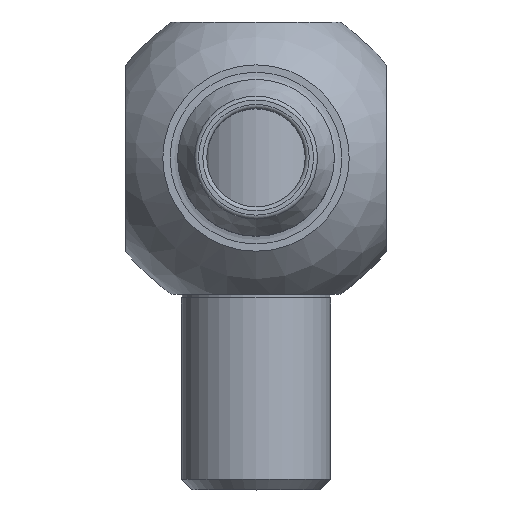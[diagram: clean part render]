
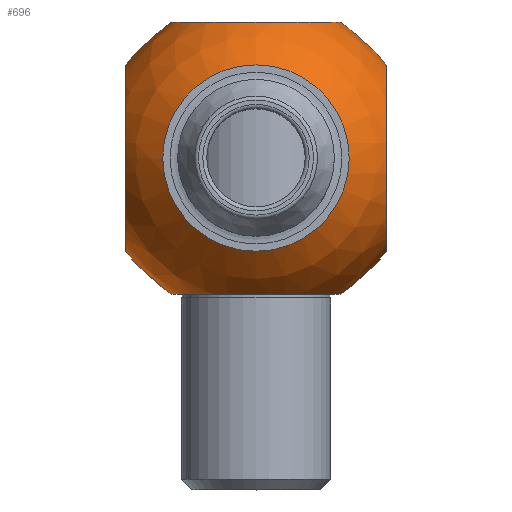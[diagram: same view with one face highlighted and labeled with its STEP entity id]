
A CAD part, top view. The second image highlights one B-rep face of the part: STEP entity #696.
In plain terms, the highlighted spherical face has radius 10.312 mm.
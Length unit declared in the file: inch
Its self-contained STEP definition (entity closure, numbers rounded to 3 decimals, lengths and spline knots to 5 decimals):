
#15=SPHERICAL_SURFACE('',#810,0.406);
#39=FACE_BOUND('',#155,.T.);
#40=FACE_BOUND('',#156,.T.);
#106=FACE_OUTER_BOUND('',#154,.T.);
#154=EDGE_LOOP('',(#638,#639,#640,#641,#642,#643,#644,#645,#646));
#155=EDGE_LOOP('',(#647));
#156=EDGE_LOOP('',(#648));
#245=CIRCLE('',#749,0.21323);
#246=CIRCLE('',#751,0.21323);
#247=CIRCLE('',#753,0.23651);
#248=CIRCLE('',#754,0.23651);
#249=CIRCLE('',#756,0.23651);
#250=CIRCLE('',#758,0.33);
#251=CIRCLE('',#759,0.33);
#274=CIRCLE('',#790,0.23651);
#275=CIRCLE('',#791,0.23651);
#288=CIRCLE('',#811,0.406);
#321=VERTEX_POINT('',#1183);
#322=VERTEX_POINT('',#1186);
#323=VERTEX_POINT('',#1189);
#324=VERTEX_POINT('',#1190);
#325=VERTEX_POINT('',#1192);
#326=VERTEX_POINT('',#1196);
#327=VERTEX_POINT('',#1197);
#347=VERTEX_POINT('',#1255);
#348=VERTEX_POINT('',#1256);
#405=EDGE_CURVE('',#321,#321,#245,.T.);
#406=EDGE_CURVE('',#322,#322,#246,.T.);
#407=EDGE_CURVE('',#323,#324,#247,.T.);
#409=EDGE_CURVE('',#324,#325,#248,.T.);
#410=EDGE_CURVE('',#326,#327,#249,.T.);
#412=EDGE_CURVE('',#327,#323,#250,.T.);
#413=EDGE_CURVE('',#325,#326,#251,.T.);
#439=EDGE_CURVE('',#347,#348,#274,.T.);
#440=EDGE_CURVE('',#348,#347,#275,.T.);
#457=EDGE_CURVE('',#348,#324,#288,.T.);
#638=ORIENTED_EDGE('',*,*,#439,.T.);
#639=ORIENTED_EDGE('',*,*,#457,.T.);
#640=ORIENTED_EDGE('',*,*,#409,.T.);
#641=ORIENTED_EDGE('',*,*,#413,.T.);
#642=ORIENTED_EDGE('',*,*,#410,.T.);
#643=ORIENTED_EDGE('',*,*,#412,.T.);
#644=ORIENTED_EDGE('',*,*,#407,.T.);
#645=ORIENTED_EDGE('',*,*,#457,.F.);
#646=ORIENTED_EDGE('',*,*,#440,.T.);
#647=ORIENTED_EDGE('',*,*,#405,.T.);
#648=ORIENTED_EDGE('',*,*,#406,.T.);
#696=ADVANCED_FACE('',(#106,#39,#40),#15,.T.);
#749=AXIS2_PLACEMENT_3D('',#1184,#913,#914);
#751=AXIS2_PLACEMENT_3D('',#1187,#917,#918);
#753=AXIS2_PLACEMENT_3D('',#1191,#921,#922);
#754=AXIS2_PLACEMENT_3D('',#1194,#924,#925);
#756=AXIS2_PLACEMENT_3D('',#1198,#928,#929);
#758=AXIS2_PLACEMENT_3D('',#1201,#933,#934);
#759=AXIS2_PLACEMENT_3D('',#1202,#935,#936);
#790=AXIS2_PLACEMENT_3D('',#1257,#1000,#1001);
#791=AXIS2_PLACEMENT_3D('',#1258,#1002,#1003);
#810=AXIS2_PLACEMENT_3D('',#1293,#1044,#1045);
#811=AXIS2_PLACEMENT_3D('',#1294,#1046,#1047);
#913=DIRECTION('center_axis',(0.,-1.,0.));
#914=DIRECTION('ref_axis',(0.,0.,1.));
#917=DIRECTION('center_axis',(0.,1.,0.));
#918=DIRECTION('ref_axis',(0.,0.,-1.));
#921=DIRECTION('center_axis',(1.,0.,0.));
#922=DIRECTION('ref_axis',(0.,0.,1.));
#924=DIRECTION('center_axis',(1.,0.,0.));
#925=DIRECTION('ref_axis',(0.,0.,1.));
#928=DIRECTION('center_axis',(-1.,0.,0.));
#929=DIRECTION('ref_axis',(0.,0.,-1.));
#933=DIRECTION('center_axis',(0.,1.,0.));
#934=DIRECTION('ref_axis',(1.,0.,0.));
#935=DIRECTION('center_axis',(0.,-1.,0.));
#936=DIRECTION('ref_axis',(1.,0.,0.));
#1000=DIRECTION('center_axis',(0.,0.,-1.));
#1001=DIRECTION('ref_axis',(1.,0.,0.));
#1002=DIRECTION('center_axis',(0.,0.,-1.));
#1003=DIRECTION('ref_axis',(1.,0.,0.));
#1044=DIRECTION('center_axis',(0.,0.,1.));
#1045=DIRECTION('ref_axis',(1.,0.,0.));
#1046=DIRECTION('center_axis',(0.,-1.,0.));
#1047=DIRECTION('ref_axis',(-1.,0.,0.));
#1183=CARTESIAN_POINT('',(0.,0.3455,-0.21323));
#1184=CARTESIAN_POINT('Origin',(0.,0.3455,0.));
#1186=CARTESIAN_POINT('',(0.,-0.3455,0.21323));
#1187=CARTESIAN_POINT('Origin',(0.,-0.3455,0.));
#1189=CARTESIAN_POINT('',(-0.33,0.23651,0.));
#1190=CARTESIAN_POINT('',(-0.33,0.,0.23651));
#1191=CARTESIAN_POINT('Origin',(-0.33,0.,0.));
#1192=CARTESIAN_POINT('',(-0.33,-0.23651,0.));
#1194=CARTESIAN_POINT('Origin',(-0.33,0.,0.));
#1196=CARTESIAN_POINT('',(0.33,-0.23651,0.));
#1197=CARTESIAN_POINT('',(0.33,0.23651,0.));
#1198=CARTESIAN_POINT('Origin',(0.33,0.,0.));
#1201=CARTESIAN_POINT('Origin',(0.,0.23651,0.));
#1202=CARTESIAN_POINT('Origin',(0.,-0.23651,0.));
#1255=CARTESIAN_POINT('',(0.,0.23651,0.33));
#1256=CARTESIAN_POINT('',(-0.23651,0.,0.33));
#1257=CARTESIAN_POINT('Origin',(0.,0.,0.33));
#1258=CARTESIAN_POINT('Origin',(0.,0.,0.33));
#1293=CARTESIAN_POINT('Origin',(0.,0.,0.));
#1294=CARTESIAN_POINT('Origin',(0.,0.,0.));
